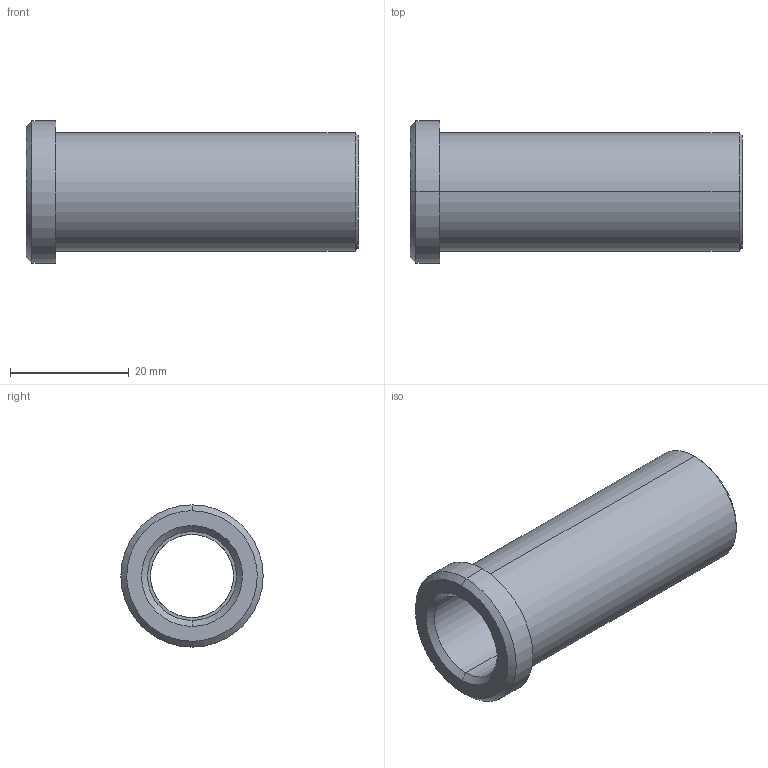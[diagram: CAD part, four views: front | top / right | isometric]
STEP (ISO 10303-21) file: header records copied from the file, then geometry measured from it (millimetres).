
FILE_DESCRIPTION(('CATIA V5 STEP Exchange'),'2;1');
FILE_NAME('C:\Users\Utente\Desktop\IO LAVORO\3D X SITO CF\X SITO\PLASTICA\353\353-14X56.stp','2021-04-21T12:15:44+00:00',('none'),('none'),'CATIA Version 5 Release 20 GA (IN-10)','CATIA V5 STEP AP203','none');
FILE_SCHEMA(('CONFIG_CONTROL_DESIGN'));
Length unit declared in the file: millimetre
Products named in the file (1): 353-14X56
Bounding box: 56 x 24 x 24 mm (x, y, z)
Volume: 8947.1 mm3; surface area: 6620.4 mm2
Topology: 1 solids, 1 shells, 20 faces, 64 edges, 48 vertices
Faces by surface type: cylinder 8, cone 6, plane 4, torus 2
Entity records: 906 total; most frequent: CARTESIAN_POINT 301, ORIENTED_EDGE 128, DIRECTION 92, EDGE_CURVE 64, AXIS2_PLACEMENT_3D 59, VERTEX_POINT 48, CIRCLE 38, EDGE_LOOP 24
